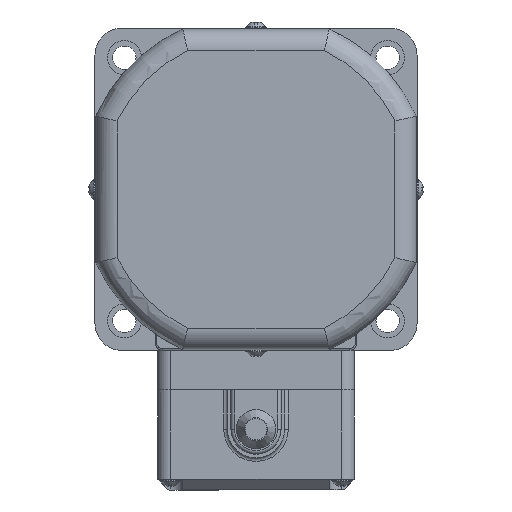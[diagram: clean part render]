
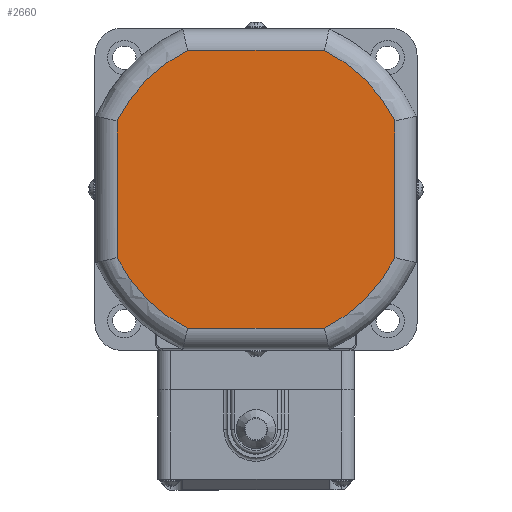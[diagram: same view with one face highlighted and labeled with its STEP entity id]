
A CAD part, left-side view. The second image highlights one B-rep face of the part: STEP entity #2660.
In plain terms, the highlighted planar face has unit normal (-1, 0, 0) as drawn and (0, 0, -1) by its records, which use the part's own axes.
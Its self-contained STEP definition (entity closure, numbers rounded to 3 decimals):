
#1993=CARTESIAN_POINT('',(38.8,-19.108,0.0));
#1994=VERTEX_POINT('',#1993);
#2021=CARTESIAN_POINT('',(19.108,-38.8,0.0));
#2022=VERTEX_POINT('',#2021);
#2040=CARTESIAN_POINT('',(0.0,0.0,0.0));
#2041=DIRECTION('',(0.0,0.0,1.0));
#2042=DIRECTION('',(0.707,-0.707,0.0));
#2043=AXIS2_PLACEMENT_3D('',#2040,#2041,#2042);
#2044=CIRCLE('',#2043,43.25);
#2045=EDGE_CURVE('',#2022,#1994,#2044,.T.);
#2057=CARTESIAN_POINT('',(-19.108,-38.8,0.0));
#2058=VERTEX_POINT('',#2057);
#2076=CARTESIAN_POINT('',(-19.108,-38.8,0.0));
#2077=DIRECTION('',(1.0,0.0,0.0));
#2078=VECTOR('',#2077,38.216);
#2079=LINE('',#2076,#2078);
#2080=EDGE_CURVE('',#2058,#2022,#2079,.T.);
#2099=CARTESIAN_POINT('',(38.8,19.108,0.0));
#2100=VERTEX_POINT('',#2099);
#2125=CARTESIAN_POINT('',(38.8,-19.108,0.0));
#2126=DIRECTION('',(0.0,1.0,0.0));
#2127=VECTOR('',#2126,38.216);
#2128=LINE('',#2125,#2127);
#2129=EDGE_CURVE('',#1994,#2100,#2128,.T.);
#2141=CARTESIAN_POINT('',(-38.8,-19.108,0.0));
#2142=VERTEX_POINT('',#2141);
#2160=CARTESIAN_POINT('',(0.0,0.0,0.0));
#2161=DIRECTION('',(0.0,0.0,1.0));
#2162=DIRECTION('',(-0.707,-0.707,0.0));
#2163=AXIS2_PLACEMENT_3D('',#2160,#2161,#2162);
#2164=CIRCLE('',#2163,43.25);
#2165=EDGE_CURVE('',#2142,#2058,#2164,.T.);
#2185=CARTESIAN_POINT('',(19.108,38.8,0.0));
#2186=VERTEX_POINT('',#2185);
#2212=CARTESIAN_POINT('',(0.0,0.0,0.0));
#2213=DIRECTION('',(0.0,0.0,1.0));
#2214=DIRECTION('',(0.707,0.707,0.0));
#2215=AXIS2_PLACEMENT_3D('',#2212,#2213,#2214);
#2216=CIRCLE('',#2215,43.25);
#2217=EDGE_CURVE('',#2100,#2186,#2216,.T.);
#2229=CARTESIAN_POINT('',(-38.8,19.108,0.0));
#2230=VERTEX_POINT('',#2229);
#2248=CARTESIAN_POINT('',(-38.8,19.108,0.0));
#2249=DIRECTION('',(0.0,-1.0,0.0));
#2250=VECTOR('',#2249,38.216);
#2251=LINE('',#2248,#2250);
#2252=EDGE_CURVE('',#2230,#2142,#2251,.T.);
#2269=CARTESIAN_POINT('',(-19.108,38.8,0.0));
#2270=VERTEX_POINT('',#2269);
#2297=CARTESIAN_POINT('',(19.108,38.8,0.0));
#2298=DIRECTION('',(-1.0,0.0,0.0));
#2299=VECTOR('',#2298,38.216);
#2300=LINE('',#2297,#2299);
#2301=EDGE_CURVE('',#2186,#2270,#2300,.T.);
#2312=CARTESIAN_POINT('',(0.0,0.0,0.0));
#2313=DIRECTION('',(0.0,0.0,1.0));
#2314=DIRECTION('',(-0.707,0.707,0.0));
#2315=AXIS2_PLACEMENT_3D('',#2312,#2313,#2314);
#2316=CIRCLE('',#2315,43.25);
#2317=EDGE_CURVE('',#2270,#2230,#2316,.T.);
#2645=CARTESIAN_POINT('',(0.,0.0,0.0));
#2646=DIRECTION('',(0.0,0.0,1.0));
#2647=DIRECTION('',(1.0,0.0,0.0));
#2648=AXIS2_PLACEMENT_3D('',#2645,#2646,#2647);
#2649=PLANE('',#2648);
#2650=ORIENTED_EDGE('',*,*,#2301,.F.);
#2651=ORIENTED_EDGE('',*,*,#2217,.F.);
#2652=ORIENTED_EDGE('',*,*,#2129,.F.);
#2653=ORIENTED_EDGE('',*,*,#2045,.F.);
#2654=ORIENTED_EDGE('',*,*,#2080,.F.);
#2655=ORIENTED_EDGE('',*,*,#2165,.F.);
#2656=ORIENTED_EDGE('',*,*,#2252,.F.);
#2657=ORIENTED_EDGE('',*,*,#2317,.F.);
#2658=EDGE_LOOP('',(#2650,#2651,#2652,#2653,#2654,#2655,#2656,#2657));
#2659=FACE_OUTER_BOUND('',#2658,.T.);
#2660=ADVANCED_FACE('',(#2659),#2649,.F.);
